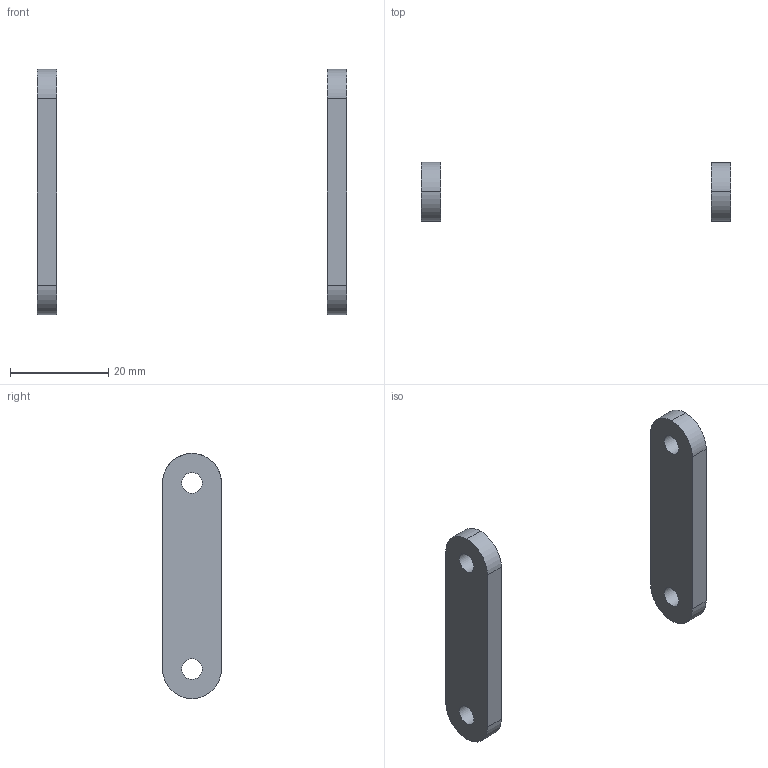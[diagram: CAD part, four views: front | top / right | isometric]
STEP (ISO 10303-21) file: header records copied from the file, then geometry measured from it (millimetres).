
FILE_DESCRIPTION(/* description */ ('CAx-IF Rec.Pracs.---Representation and Presentation of Product Manufacturing Information (PMI)---4.0---2014-10-13','CAx-IF Rec.Pracs.---3D Tessellated Geometry---0.4---2014-09-14','2;1'),/* implementation_level */ '2;1');
FILE_NAME(/* name */ 'qc1_t5_abad_spacer_tool',/* time_stamp */ '2026-07-24T03:35:42+03:00',/* author */ (''),/* organization */ (''),/* preprocessor_version */ 'ST-DEVELOPER v19.4',/* originating_system */ 'SIEMENS PLM Software NX2306.1700',/* authorisation */ $);
FILE_SCHEMA (('AP242_MANAGED_MODEL_BASED_3D_ENGINEERING_MIM_LF { 1 0 10303 442 3 1 4 }'));
Length unit declared in the file: millimetre
Products named in the file (1): qc1_t5_abad_spacer_tool
Bounding box: 63.1 x 12 x 50 mm (x, y, z)
Volume: 4330.9 mm3; surface area: 3286.1 mm2
Topology: 2 solids, 2 shells, 18 faces, 42 edges, 28 vertices
Faces by surface type: plane 8, cylinder 6, bspline 4
Full cylindrical faces by diameter (mm): 4.2 x4
Entity records: 589 total; most frequent: CARTESIAN_POINT 165, ORIENTED_EDGE 76, DIRECTION 72, EDGE_CURVE 38, EDGE_LOOP 30, FACE_BOUND 30, VERTEX_POINT 28, AXIS2_PLACEMENT_3D 27
